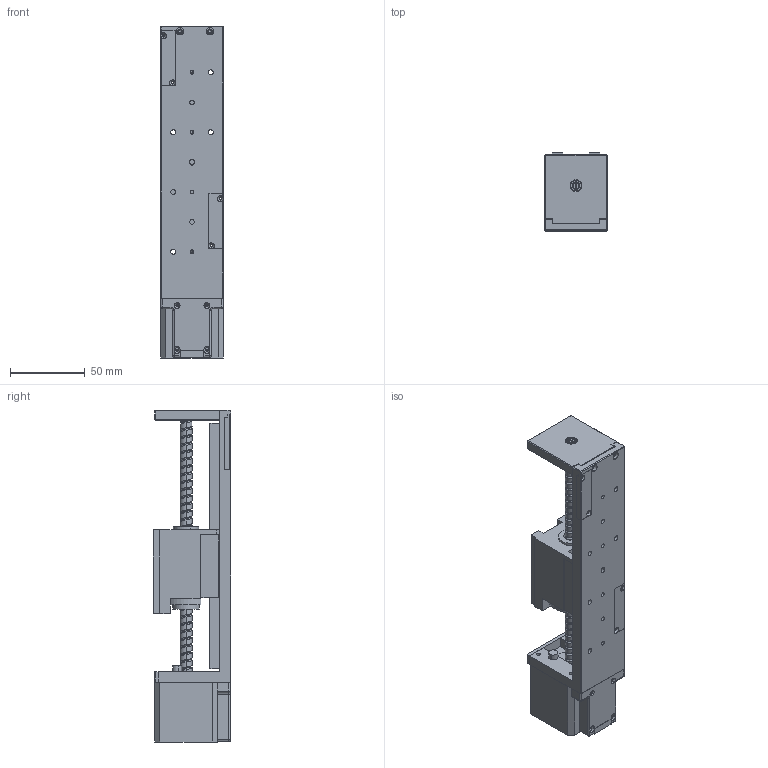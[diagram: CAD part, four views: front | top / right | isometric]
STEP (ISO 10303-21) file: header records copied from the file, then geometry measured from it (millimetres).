
FILE_DESCRIPTION (( 'STEP AP203' ), '1' );
FILE_NAME ('EML42A40-B05100.STEP', '2023-11-10T09:36:07', ( '' ), ( '' ), 'SwSTEP 2.0', 'SolidWorks 2023', '' );
FILE_SCHEMA (( 'CONFIG_CONTROL_DESIGN' ));
Length unit declared in the file: millimetre
Products named in the file (16): EML42A40-B05100; 28-42前导光片; MGN15C滑块; XY-1064; 0805螺母; 42光电安装座; 42A40端子盖; 42A40-GZ0805-182电机; MGN15-164导轨; 42经济模组轴承座; 42单边桥; 42-100光电经济模组基座; 防撞牛筋柱3-6-4; 28-42后导光片; 28-42端子线路板; JFM0507-05
Assembly tree (16 placements, depth 2):
  EML42A40-B05100
    42-100光电经济模组基座
    42经济模组轴承座
    MGN15-164导轨
    MGN15C滑块
    42光电安装座
    42A40-GZ0805-182电机
    0805螺母
    42单边桥
    JFM0507-05
    XY-1064
    28-42前导光片
    28-42后导光片
    42A40端子盖
    28-42端子线路板
    防撞牛筋柱3-6-4  x2
Bounding box: 42 x 52 x 222 mm (x, y, z)
Volume: 225121.7 mm3; surface area: 89076.1 mm2
Topology: 16 solids, 16 shells, 786 faces, 2084 edges, 1306 vertices
Faces by surface type: cylinder 376, plane 308, cone 85, torus 7, bspline 6, sphere 4
Entity records: 40831 total; most frequent: CARTESIAN_POINT 19722, DIRECTION 4097, ORIENTED_EDGE 4028, EDGE_CURVE 2014, AXIS2_PLACEMENT_3D 1461, VERTEX_POINT 1298, VECTOR 1175, LINE 1175
